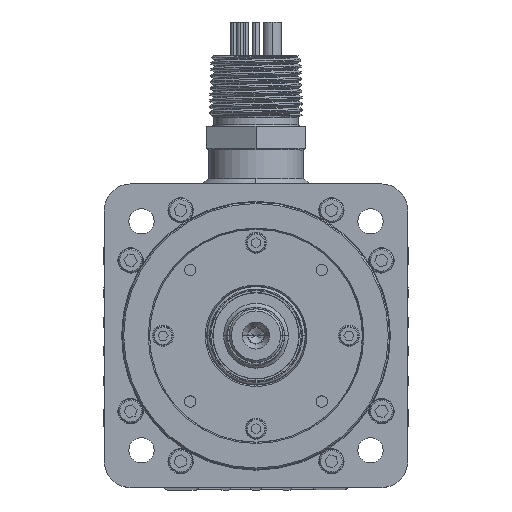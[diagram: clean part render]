
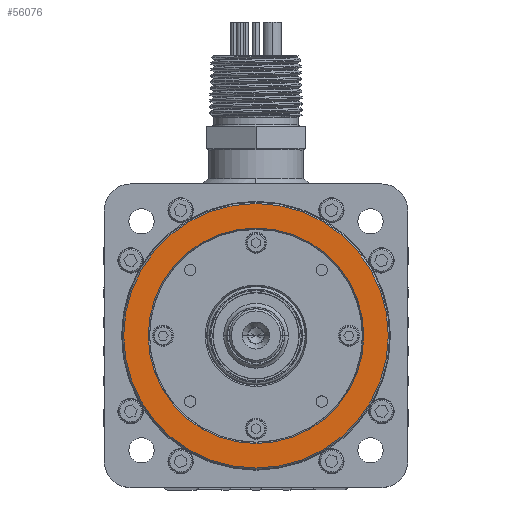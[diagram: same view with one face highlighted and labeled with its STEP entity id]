
A CAD part, top view. The second image highlights one B-rep face of the part: STEP entity #56076.
In plain terms, the highlighted planar face has unit normal (0, 0, 1).
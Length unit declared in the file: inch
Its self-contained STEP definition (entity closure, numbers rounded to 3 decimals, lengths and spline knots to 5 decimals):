
#3282 = DIRECTION ( 'NONE',  ( 1., 0., 0. ) ) ;
#4623 = ORIENTED_EDGE ( 'NONE', *, *, #15819, .T. ) ;
#5714 = EDGE_CURVE ( 'NONE', #42465, #24612, #34873, .T. ) ;
#6280 = CIRCLE ( 'NONE', #28064, 1.8501 ) ;
#8987 = DIRECTION ( 'NONE',  ( 0., 0., 1. ) ) ;
#14611 = EDGE_CURVE ( 'NONE', #50476, #38804, #17611, .T. ) ;
#14748 = FACE_OUTER_BOUND ( 'NONE', #64266, .T. ) ;
#14842 = ORIENTED_EDGE ( 'NONE', *, *, #30564, .F. ) ;
#15819 = EDGE_CURVE ( 'NONE', #24612, #42465, #6280, .T. ) ;
#17611 = CIRCLE ( 'NONE', #22432, 1.50682 ) ;
#18770 = DIRECTION ( 'NONE',  ( 1., 0., 0. ) ) ;
#21045 = DIRECTION ( 'NONE',  ( 1., 0., 0. ) ) ;
#22432 = AXIS2_PLACEMENT_3D ( 'NONE', #59103, #36680, #3282 ) ;
#23184 = DIRECTION ( 'NONE',  ( 1., 0., 0. ) ) ;
#23614 = ORIENTED_EDGE ( 'NONE', *, *, #5714, .T. ) ;
#23645 = DIRECTION ( 'NONE',  ( 0., 0., 1. ) ) ;
#24612 = VERTEX_POINT ( 'NONE', #56359 ) ;
#25556 = CARTESIAN_POINT ( 'NONE',  ( 1.50682, 0., 0. ) ) ;
#27614 = CARTESIAN_POINT ( 'NONE',  ( 1.8501, 0., 0. ) ) ;
#27897 = FACE_BOUND ( 'NONE', #52752, .T. ) ;
#28064 = AXIS2_PLACEMENT_3D ( 'NONE', #34385, #23645, #61746 ) ;
#28515 = CARTESIAN_POINT ( 'NONE',  ( 0., 0., 0. ) ) ;
#29579 = DIRECTION ( 'NONE',  ( 0., 0., 1. ) ) ;
#30564 = EDGE_CURVE ( 'NONE', #38804, #50476, #40910, .T. ) ;
#34385 = CARTESIAN_POINT ( 'NONE',  ( 0., 0., 0. ) ) ;
#34873 = CIRCLE ( 'NONE', #66383, 1.8501 ) ;
#36680 = DIRECTION ( 'NONE',  ( 0., 0., 1. ) ) ;
#36982 = CARTESIAN_POINT ( 'NONE',  ( -1.50682, 0., 0. ) ) ;
#38804 = VERTEX_POINT ( 'NONE', #36982 ) ;
#40910 = CIRCLE ( 'NONE', #66308, 1.50682 ) ;
#42465 = VERTEX_POINT ( 'NONE', #27614 ) ;
#48933 = PLANE ( 'NONE',  #57389 ) ;
#50476 = VERTEX_POINT ( 'NONE', #25556 ) ;
#52752 = EDGE_LOOP ( 'NONE', ( #68000, #14842 ) ) ;
#54584 = DIRECTION ( 'NONE',  ( 0., 0., 1. ) ) ;
#56076 = ADVANCED_FACE ( 'NONE', ( #14748, #27897 ), #48933, .T. ) ;
#56359 = CARTESIAN_POINT ( 'NONE',  ( -1.8501, 0., 0. ) ) ;
#57389 = AXIS2_PLACEMENT_3D ( 'NONE', #71276, #54584, #21045 ) ;
#58484 = CARTESIAN_POINT ( 'NONE',  ( 0., 0., 0. ) ) ;
#59103 = CARTESIAN_POINT ( 'NONE',  ( 0., 0., 0. ) ) ;
#61746 = DIRECTION ( 'NONE',  ( 1., 0., 0. ) ) ;
#64266 = EDGE_LOOP ( 'NONE', ( #4623, #23614 ) ) ;
#66308 = AXIS2_PLACEMENT_3D ( 'NONE', #58484, #29579, #23184 ) ;
#66383 = AXIS2_PLACEMENT_3D ( 'NONE', #28515, #8987, #18770 ) ;
#68000 = ORIENTED_EDGE ( 'NONE', *, *, #14611, .F. ) ;
#71276 = CARTESIAN_POINT ( 'NONE',  ( 0., 1.50682, 0. ) ) ;
